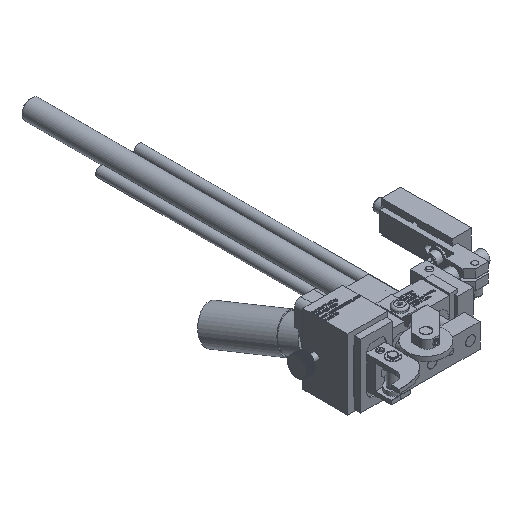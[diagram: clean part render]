
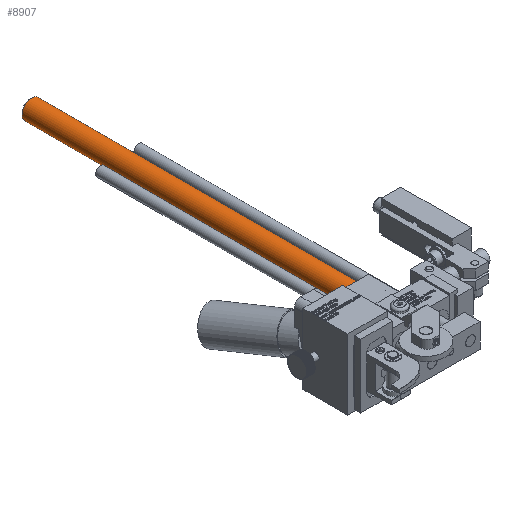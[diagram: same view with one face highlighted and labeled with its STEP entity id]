
A CAD part, isometric view. The second image highlights one B-rep face of the part: STEP entity #8907.
In plain terms, the highlighted cylindrical face has radius 4.763 mm (diameter 9.525 mm), a full revolution.
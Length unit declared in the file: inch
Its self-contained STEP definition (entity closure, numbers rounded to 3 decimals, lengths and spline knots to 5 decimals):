
#8876=CARTESIAN_POINT('',(-0.01557,7.57919,-0.5305));
#8877=VERTEX_POINT('',#8876);
#8878=CARTESIAN_POINT('',(-0.01557,7.57919,-0.343));
#8879=DIRECTION('',(0.0,1.0,0.0));
#8880=DIRECTION('',(0.0,0.0,1.0));
#8881=AXIS2_PLACEMENT_3D('',#8878,#8879,#8880);
#8882=CIRCLE('',#8881,0.1875);
#8883=EDGE_CURVE('',#8877,#8877,#8882,.T.);
#8888=CARTESIAN_POINT('',(-0.01557,1.23419,-0.343));
#8889=DIRECTION('',(0.,1.0,0.));
#8890=DIRECTION('',(0.0,0.0,1.0));
#8891=AXIS2_PLACEMENT_3D('',#8888,#8889,#8890);
#8892=CYLINDRICAL_SURFACE('',#8891,0.1875);
#8893=CARTESIAN_POINT('',(-0.01557,1.23419,-0.5305));
#8894=VERTEX_POINT('',#8893);
#8895=CARTESIAN_POINT('',(-0.01557,1.23419,-0.343));
#8896=DIRECTION('',(0.0,-1.0,0.0));
#8897=DIRECTION('',(0.0,0.0,1.0));
#8898=AXIS2_PLACEMENT_3D('',#8895,#8896,#8897);
#8899=CIRCLE('',#8898,0.1875);
#8900=EDGE_CURVE('',#8894,#8894,#8899,.T.);
#8901=ORIENTED_EDGE('',*,*,#8900,.F.);
#8902=EDGE_LOOP('',(#8901));
#8903=FACE_OUTER_BOUND('',#8902,.T.);
#8904=ORIENTED_EDGE('',*,*,#8883,.F.);
#8905=EDGE_LOOP('',(#8904));
#8906=FACE_BOUND('',#8905,.T.);
#8907=ADVANCED_FACE('',(#8903,#8906),#8892,.T.);
